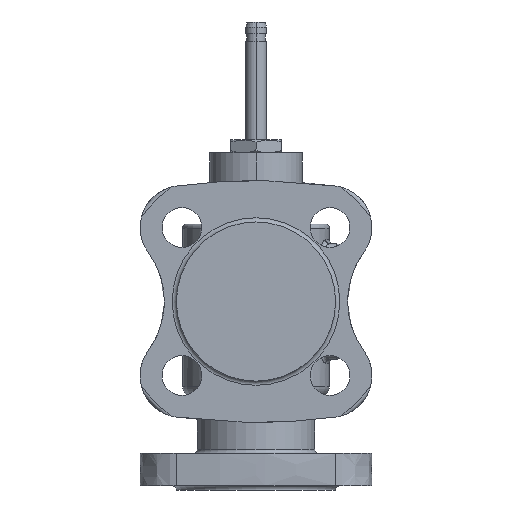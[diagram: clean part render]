
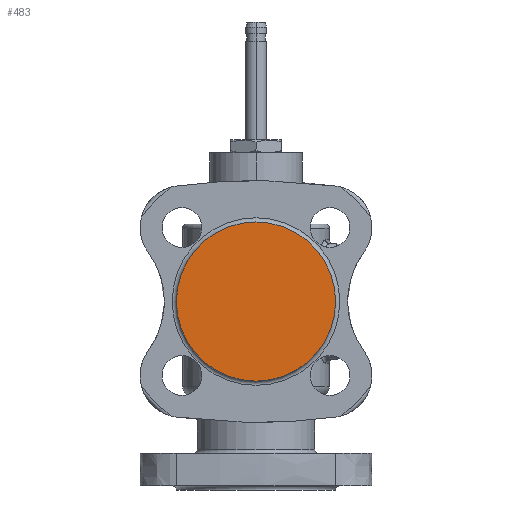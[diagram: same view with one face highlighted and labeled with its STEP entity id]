
A CAD part, left-side view. The second image highlights one B-rep face of the part: STEP entity #483.
In plain terms, the highlighted planar face has unit normal (-1, 0, 0).
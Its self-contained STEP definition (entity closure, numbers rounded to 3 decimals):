
#369=FACE_OUTER_BOUND('',#895,.T.);
#483=ADVANCED_FACE('',(#369),#617,.T.);
#617=PLANE('',#2406);
#895=EDGE_LOOP('',(#1190));
#1190=ORIENTED_EDGE('',*,*,#2020,.F.);
#1803=VERTEX_POINT('',#4451);
#2020=EDGE_CURVE('',#1803,#1803,#2251,.T.);
#2251=CIRCLE('',#2404,38.);
#2404=AXIS2_PLACEMENT_3D('',#4450,#2735,#2736);
#2406=AXIS2_PLACEMENT_3D('',#4453,#2739,#2740);
#2735=DIRECTION('',(1.,0.,0.));
#2736=DIRECTION('',(0.,0.,-1.));
#2739=DIRECTION('',(-1.,0.,0.));
#2740=DIRECTION('',(0.,0.,1.));
#4450=CARTESIAN_POINT('',(100.,0.,0.));
#4451=CARTESIAN_POINT('',(100.,0.,-38.));
#4453=CARTESIAN_POINT('',(100.,0.,0.));
